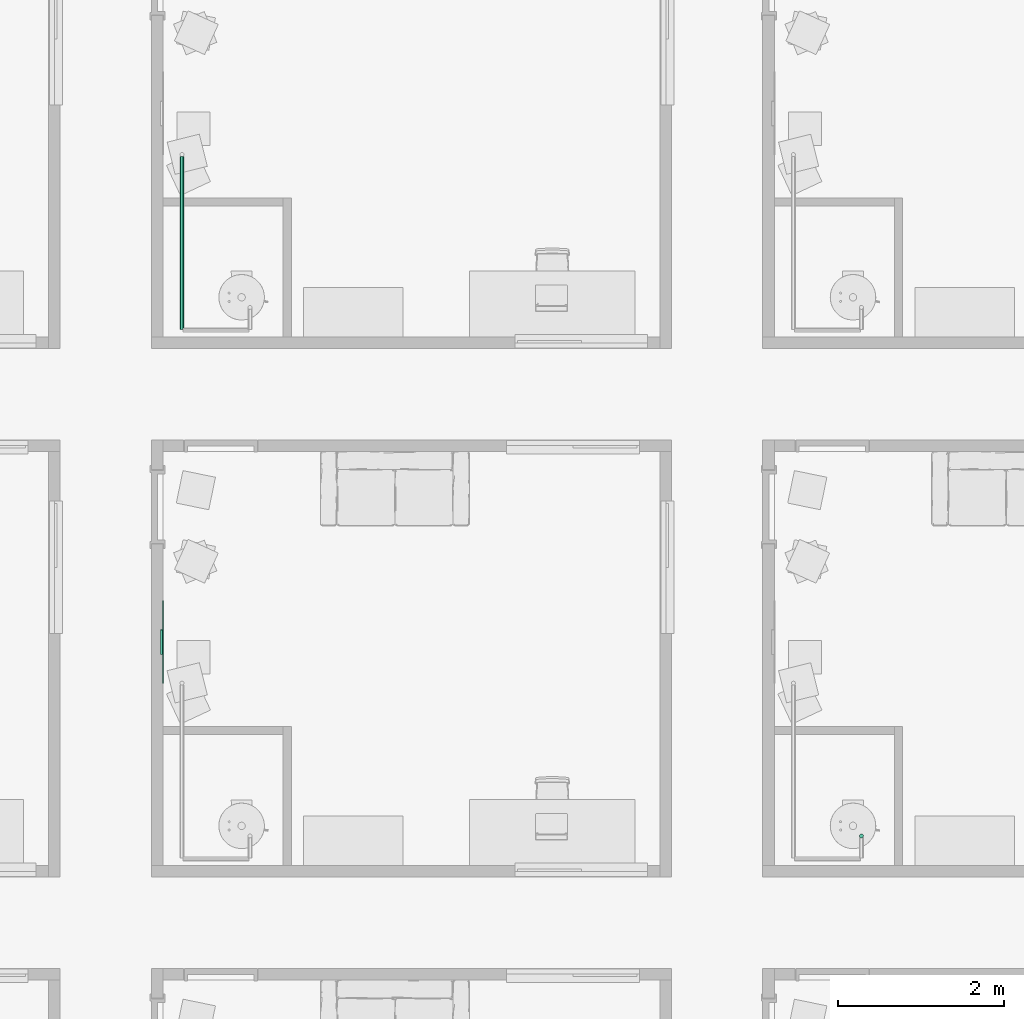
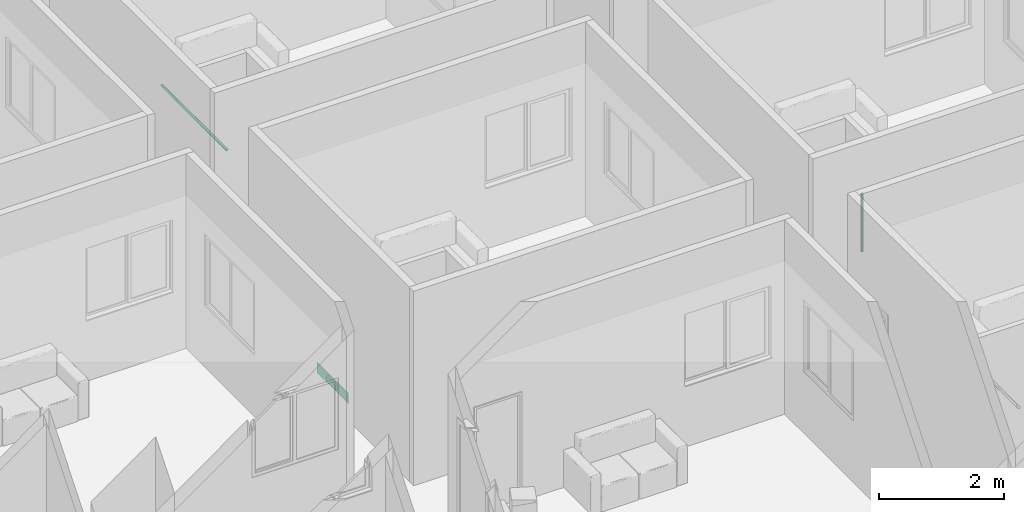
# One storey, part 39 of 72: 2 pipe segments, 1 air terminal.
"""IFC4 building model written with IfcOpenShell, lengths in centimetres."""

from ifc_helpers import new_model, entity, si_unit, converted_unit, derived_unit, direction, frame, origin, place, context, subcontext, project, spatial, arc, indexed_curve, outline, extrude, source, transform, mapped, material, constituent, constituent_set, type_object, type_shapes, element, save


model = new_model("IFC4")

# Units and contexts
model_context = context("Model", 3, precision=0.001, world=origin(), true_north=direction((6.123233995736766e-17, 1.0)))
body_context = subcontext(model_context, "Body", "Model", "MODEL_VIEW")
ifc_project = project(units=[si_unit("LENGTHUNIT", "METRE", prefix="CENTI"), si_unit("AREAUNIT", "SQUARE_METRE"), si_unit("VOLUMEUNIT", "CUBIC_METRE"), derived_unit("THERMALTRANSMITTANCEUNIT", [(si_unit("MASSUNIT", "GRAM", prefix="KILO"), 1), (si_unit("THERMODYNAMICTEMPERATUREUNIT", "KELVIN"), -1), (si_unit("TIMEUNIT", "SECOND"), -3)]), converted_unit("PLANEANGLEUNIT", "DEGREE", entity("IfcPlaneAngleMeasure", 0.017453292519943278), si_unit("PLANEANGLEUNIT", "RADIAN"), dimensions=[0, 0, 0, 0, 0, 0, 0]), derived_unit("MASSDENSITYUNIT", [(si_unit("MASSUNIT", "GRAM", prefix="KILO"), 1), (si_unit("LENGTHUNIT", "METRE"), -3)]), derived_unit("VAPORPERMEABILITYUNIT", [(si_unit("LENGTHUNIT", "METRE"), -1), (si_unit("TIMEUNIT", "SECOND"), 1)]), derived_unit("USERDEFINED", [(si_unit("MASSUNIT", "GRAM", prefix="KILO"), 1), (si_unit("TIMEUNIT", "SECOND"), -3), (si_unit("LENGTHUNIT", "METRE"), 3), (si_unit("ELECTRICCURRENTUNIT", "AMPERE"), -2)]), derived_unit("SPECIFICHEATCAPACITYUNIT", [(si_unit("THERMODYNAMICTEMPERATUREUNIT", "KELVIN"), -1), (si_unit("LENGTHUNIT", "METRE"), 2), (si_unit("TIMEUNIT", "SECOND"), -2)]), derived_unit("THERMALCONDUCTANCEUNIT", [(si_unit("MASSUNIT", "GRAM", prefix="KILO"), 1), (si_unit("THERMODYNAMICTEMPERATUREUNIT", "KELVIN"), -1), (si_unit("TIMEUNIT", "SECOND"), -3), (si_unit("LENGTHUNIT", "METRE"), 1)]), si_unit("PRESSUREUNIT", "PASCAL"), derived_unit("MODULUSOFELASTICITYUNIT", [(si_unit("MASSUNIT", "GRAM", prefix="KILO"), 1), (si_unit("LENGTHUNIT", "METRE"), -1), (si_unit("TIMEUNIT", "SECOND"), -2)]), derived_unit("THERMALEXPANSIONCOEFFICIENTUNIT", [(si_unit("THERMODYNAMICTEMPERATUREUNIT", "KELVIN"), -1)])], contexts=[model_context])

# Site, building, storey, space
site_placement = place(None, origin())
site = spatial("IfcSite", under=ifc_project, at=site_placement, Name="Default", CompositionType="ELEMENT")
building_placement = place(site_placement, origin())
building = spatial("IfcBuilding", under=site, at=building_placement, Name="IDS Escape Game Building", CompositionType="ELEMENT")
storey_placement = place(building_placement, frame((0.0, 0.0, 800.0)))
storey = spatial("IfcBuildingStorey", under=building, at=storey_placement, Name="02_Second Floor", CompositionType="ELEMENT", Elevation=800.0)
space_placement = place(storey_placement, origin())
space = spatial("IfcSpace", under=storey, at=space_placement, Name="83", CompositionType="ELEMENT", PredefinedType="NOTDEFINED")

# Air terminal
ifc_material_1 = material(Name="TB_LVC_referentievlak_00_gen_BERSnl", Category="BE Default")
ifc_constituent_1 = constituent(ifc_material_1, Name="TB_LVC_referentievlak_00_gen_BERSnl", Category="BE Default", fraction=0.00014157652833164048)
ifc_material_2 = material(Name="ARC_FME.h2_staal_00_gen_BERSnl", Category="h - metaal")
ifc_constituent_2 = constituent(ifc_material_2, Name="ARC_FME.h2_staal_00_gen_BERSnl", Category="h - metaal", fraction=0.9998584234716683)
ifc_constituent_set_1 = constituent_set(constituents=[ifc_constituent_1, ifc_constituent_2])
ifc_constituent_3 = constituent(ifc_material_1, Name="BE Referentievlak", Category="BE Default", fraction=0.00014157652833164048)
ifc_constituent_4 = constituent(ifc_material_2, Name="Terminals", Category="h - metaal", fraction=0.9998584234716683)
ifc_constituent_set_2 = constituent_set(constituents=[ifc_constituent_3, ifc_constituent_4])
air_terminal_type = type_object("IfcAirTerminalType", Name="TB_57_AIR_FB_aanzuigrooster - 1 rechthoekige aansluiting - calculated flow_gen_BERSnl:Air Terminal - Exhaust", PredefinedType="GRILLE", material=ifc_constituent_set_2)
shared_shape = source(origin(), body_context, "Body", "SweptSolid", [
    extrude(outline(indexed_curve([(-0.5, -2.0290176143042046e-15), (6.8507733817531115e-16, -0.5000000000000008), (0.5, 2.0290176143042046e-15), (-5.361679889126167e-16, 0.49999999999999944)], segments=[arc(1, 2, 3), arc(3, 4, 1)], self_intersect=False)), frame((0.0, 0.0, 0.0), z_axis=(1.7453292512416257e-05, 0.0, 1.0), x_axis=(0.0, 1.0, 0.0)), (0.0, 0.0, 1.0), 0.09999999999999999),
    extrude(outline(indexed_curve([(-14.900000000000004, -4.9), (14.900000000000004, -4.9), (14.900000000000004, 4.9), (-14.900000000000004, 4.9), (-14.900000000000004, -4.9)], self_intersect=False)), frame((-4.886921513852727e-05, 0.0, -2.7999999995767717)), (0.0, 0.0, 1.0), 2.7999999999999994),
    extrude(outline(indexed_curve([(-50.0, -10.0), (50.0, -10.0), (50.0, 10.0), (-50.0, 10.0), (-50.0, -10.0)], self_intersect=False)), frame((0.0, 0.0, 0.0), z_axis=(0.0, 0.0, 1.0), x_axis=(-1.0, 0.0, 0.0)), (0.0, 0.0, 1.0), 0.6999999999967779),
])
type_shapes(air_terminal_type, [shared_shape])
air_terminal_placement = place(space_placement, frame((3697.0, 921.0, 24.0), z_axis=(1.0, 0.0, 0.0), x_axis=(0.0, 1.0, 0.0)))
element("IfcAirTerminal", 1, at=air_terminal_placement, inside=space, type_object=air_terminal_type, material=ifc_constituent_set_1, Name="TB_57_AIR_FB_aanzuigrooster - 1 rechthoekige aansluiting - calculated flow_gen_BERSnl:Air Terminal - Exhaust", ObjectType="TB_57_AIR_FB_aanzuigrooster - 1 rechthoekige aansluiting - calculated flow_gen_BERSnl:Air Terminal - Exhaust", PredefinedType="GRILLE", context=body_context, shape_type="MappedRepresentation", body=[
    mapped(shared_shape, transform((0.0, 0.0, 0.0), scale=1.0)),
])

# Pipe segments
pipe_segment_type = type_object("IfcPipeSegmentType", Name="Pipe Types:Piping Aluminum", PredefinedType="NOTDEFINED")
pipe_segment_1_placement = place(storey_placement, origin())
element("IfcPipeSegment", 2, at=pipe_segment_1_placement, inside=storey, type_object=pipe_segment_type, Name="Pipe Types:Piping Aluminum", ObjectType="Pipe Types:Piping Aluminum", PredefinedType="NOTDEFINED", context=body_context, shape_type="SweptSolid", body=[
    extrude(outline(indexed_curve([(2.4130000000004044, 0.0), (1.7062486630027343, 1.7062486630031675), (0.0, 2.412999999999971), (-1.7062486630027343, 1.7062486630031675), (-2.4130000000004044, 0.0), (-1.7062486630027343, -1.7062486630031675), (0.0, -2.412999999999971), (1.7062486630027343, -1.7062486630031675)], segments=[arc(1, 2, 3), arc(3, 4, 5), arc(5, 6, 7), arc(7, 8, 1)], self_intersect=False)), frame((4540.150000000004, 686.9000000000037, 128.0), z_axis=(0.0, 0.0, 1.0), x_axis=(-1.0, 0.0, 0.0)), (0.0, 0.0, 1.0), 112.90000000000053),
])
pipe_segment_2_placement = place(storey_placement, origin())
element("IfcPipeSegment", 3, at=pipe_segment_2_placement, inside=storey, type_object=pipe_segment_type, Name="Pipe Types:Piping Aluminum", ObjectType="Pipe Types:Piping Aluminum", PredefinedType="NOTDEFINED", context=body_context, shape_type="SweptSolid", body=[
    extrude(outline(indexed_curve([(2.412999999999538, 0.0), (1.7062486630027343, 1.7062486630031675), (-4.331468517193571e-13, 2.412999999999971), (-1.7062486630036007, 1.7062486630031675), (-2.4130000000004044, 0.0), (-1.7062486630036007, -1.7062486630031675), (-4.331468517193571e-13, -2.412999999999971), (1.7062486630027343, -1.7062486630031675)], segments=[arc(1, 2, 3), arc(3, 4, 5), arc(5, 6, 7), arc(7, 8, 1)], self_intersect=False)), frame((3720.0467168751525, 1298.3648279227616, 242.0), z_axis=(0.0, 1.0, 0.0), x_axis=(1.0, 0.0, 0.0)), (0.0, 0.0, 1.0), 208.80000000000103),
])

save(model, "model.ifc")
